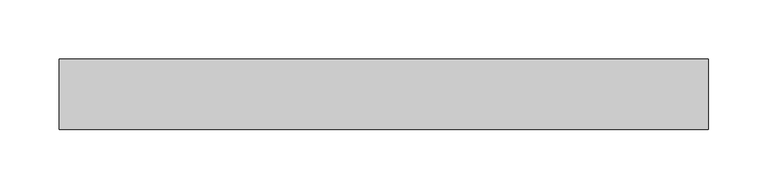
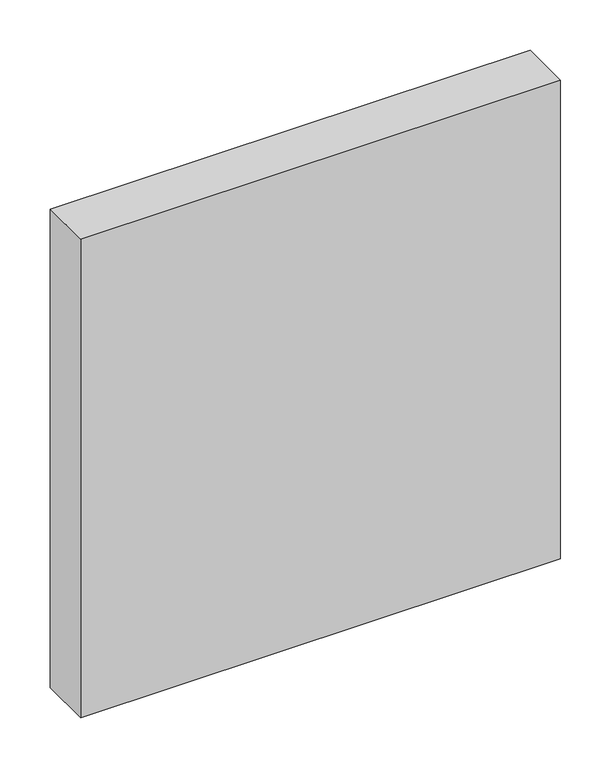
"""IFC4 building model written with IfcOpenShell, lengths in millimetres: plate geometry, Системная панель : Алюкобонд серый."""

import ifcopenshell
import ifcopenshell.guid

model = None  # the IFC model being written
_history = None  # IfcOwnerHistory: only IFC2X3 demands one
_inside = {}  # id of a spatial element -> (the spatial element, [elements in it])
_under = {}  # id of a project, library or spatial element -> (it, [spatial elements below it])
_declared = {}  # id of a project -> (the project, [libraries it declares])
_typed = {}  # id of a type object -> (the type object, [elements of that type])
_made_of = {}  # id of a material, layer set ... -> (it, [elements and type objects made of it])


def new_model(schema):
    """Start an empty IFC model of exactly this schema.

    Asked for "IFC4X3", IfcOpenShell would pick the latest addendum, in which some entities
    have other attributes; the version numbers below select the first issue.
    IFC2X3 requires an IfcOwnerHistory on every rooted entity: one is made here for all.
    """
    global model, _history
    if schema == "IFC4X3":
        model = ifcopenshell.file(schema_version=(4, 3, 0, 0))
    else:
        model = ifcopenshell.file(schema=schema)
    _inside.clear()
    _under.clear()
    _declared.clear()
    _typed.clear()
    _made_of.clear()
    _history = None
    if model.schema == "IFC2X3":
        org = make("IfcOrganization", Name="unknown")
        user = make(
            "IfcPersonAndOrganization",
            ThePerson=make("IfcPerson", FamilyName="unknown"),
            TheOrganization=org,
        )
        app = make(
            "IfcApplication",
            ApplicationDeveloper=org,
            Version="unknown",
            ApplicationFullName="unknown",
            ApplicationIdentifier="unknown",
        )
        _history = make(
            "IfcOwnerHistory",
            OwningUser=user,
            OwningApplication=app,
            ChangeAction="ADDED",
            CreationDate=0,
        )
    return model


def make(cls, **values):
    """One entity of the class cls with the attributes given. An attribute that is None is left unset."""
    return model.create_entity(
        cls, **{name: value for name, value in values.items() if value is not None}
    )


def rooted(cls, **values):
    """An entity with a GlobalId (a new one), such as an element, a storey or a relation."""
    return make(cls, GlobalId=ifcopenshell.guid.new(), OwnerHistory=_history, **values)


def si_unit(unit_type, name, prefix=None):
    """IfcSIUnit, for example si_unit("LENGTHUNIT", "METRE", prefix="MILLI")."""
    return make("IfcSIUnit", UnitType=unit_type, Prefix=prefix, Name=name)


def assignment(units):
    """IfcUnitAssignment: the units of a project."""
    return None if units is None else make("IfcUnitAssignment", Units=units)


def point(xyz):
    """IfcCartesianPoint."""
    return None if xyz is None else make("IfcCartesianPoint", Coordinates=xyz)


def direction(xyz):
    """IfcDirection."""
    return None if xyz is None else make("IfcDirection", DirectionRatios=xyz)


def frame(location, z_axis=None, x_axis=None):
    """IfcAxis2Placement3D, a coordinate frame: its origin and axes. An axis left out is left unset."""
    return make(
        "IfcAxis2Placement3D",
        Location=point(location),
        Axis=direction(z_axis),
        RefDirection=direction(x_axis),
    )


def origin():
    """The frame at (0, 0, 0) with its axes left unset."""
    return frame((0.0, 0.0, 0.0))


def origin_with_axes():
    """The frame at (0, 0, 0) with the z axis (0, 0, 1) and the x axis (1, 0, 0) written out."""
    return frame((0.0, 0.0, 0.0), z_axis=(0.0, 0.0, 1.0), x_axis=(1.0, 0.0, 0.0))


def place(relative_to, where):
    """IfcLocalPlacement: puts the frame where relative to a parent placement (None: the world)."""
    return make(
        "IfcLocalPlacement", PlacementRelTo=relative_to, RelativePlacement=where
    )


def context(
    kind, dimensions, precision=None, world=None, true_north=None, identifier=None
):
    """IfcGeometricRepresentationContext, for example the 3D "Model" context."""
    return make(
        "IfcGeometricRepresentationContext",
        ContextIdentifier=identifier,
        ContextType=kind,
        CoordinateSpaceDimension=dimensions,
        Precision=precision,
        WorldCoordinateSystem=world,
        TrueNorth=true_north,
    )


def project(units=None, contexts=None):
    """IfcProject with its units and contexts."""
    return rooted(
        "IfcProject",
        Name="project",
        RepresentationContexts=contexts,
        UnitsInContext=assignment(units),
    )


def spatial(cls, under=None, at=None, **own):
    """A site, building, storey or space (cls), placed at a placement, below another one or the project."""
    s = rooted(cls, ObjectPlacement=at, **own)
    if under is not None:
        _under.setdefault(under.id(), (under, []))[1].append(s)
    return s


def polyline(points):
    """IfcPolyline through the points."""
    return make("IfcPolyline", Points=[point(p) for p in points])


def outline(outer, holes=None, kind="AREA"):
    """IfcArbitraryClosedProfileDef: a profile drawn as a closed curve; with holes, ...WithVoids."""
    if holes is None:
        return make("IfcArbitraryClosedProfileDef", ProfileType=kind, OuterCurve=outer)
    return make(
        "IfcArbitraryProfileDefWithVoids",
        ProfileType=kind,
        OuterCurve=outer,
        InnerCurves=holes,
    )


def extrude(swept, where, along, depth):
    """IfcExtrudedAreaSolid: the profile swept, set in the frame where, extruded along a direction by depth."""
    return make(
        "IfcExtrudedAreaSolid",
        SweptArea=swept,
        Position=where,
        ExtrudedDirection=direction(along),
        Depth=depth,
    )


def shape(context_of_items, identifier, shape_type, items):
    """IfcShapeRepresentation: the items that make up one representation, for example the "Body"."""
    return make(
        "IfcShapeRepresentation",
        ContextOfItems=context_of_items,
        RepresentationIdentifier=identifier,
        RepresentationType=shape_type,
        Items=items,
    )


def source(mapping_origin, context_of_items, identifier, shape_type, items):
    """IfcRepresentationMap: a shape defined once, which mapped items show again and again."""
    return make(
        "IfcRepresentationMap",
        MappingOrigin=mapping_origin,
        MappedRepresentation=shape(context_of_items, identifier, shape_type, items),
    )


def transform(
    local_origin,
    x_axis=None,
    y_axis=None,
    z_axis=None,
    scale=None,
    scale2=None,
    scale3=None,
    uniform=True,
):
    """IfcCartesianTransformationOperator3D, or its non-uniform kind. x_axis, y_axis, z_axis: its Axis1, 2, 3."""
    if uniform:
        return make(
            "IfcCartesianTransformationOperator3D",
            Axis1=direction(x_axis),
            Axis2=direction(y_axis),
            LocalOrigin=point(local_origin),
            Scale=scale,
            Axis3=direction(z_axis),
        )
    return make(
        "IfcCartesianTransformationOperator3DnonUniform",
        Axis1=direction(x_axis),
        Axis2=direction(y_axis),
        LocalOrigin=point(local_origin),
        Scale=scale,
        Axis3=direction(z_axis),
        Scale2=scale2,
        Scale3=scale3,
    )


def mapped(mapping_source, mapping_target):
    """IfcMappedItem: shows the shape of a source again, moved by a transform."""
    return make(
        "IfcMappedItem", MappingSource=mapping_source, MappingTarget=mapping_target
    )


def made_of(thing, what):
    """Note that an element or type object is made of a material, layer set ...; save() writes the relation."""
    if what is not None:
        _made_of.setdefault(what.id(), (what, []))[1].append(thing)
    return thing


def element(
    cls,
    number,
    at=None,
    inside=None,
    cuts=None,
    type_object=None,
    material=None,
    context=None,
    identifier="Body",
    shape_type=None,
    held_by="IfcProductDefinitionShape",
    body=None,
    shapes=None,
    **own,
):
    """One element of the class cls, such as IfcWall. Its Tag is "e" and its number.

    at: its placement. inside: the storey or other place that contains it. cuts: it is an
    opening in that element (IfcRelVoidsElement). A single representation is given by context,
    identifier, shape_type and body (its items); several are given by shapes. held_by: the class
    of the entity that holds the representations. save() writes the other relations.
    """
    e = rooted(cls, Tag="e%d" % number, ObjectPlacement=at, **own)
    if body is not None:
        shapes = [shape(context, identifier, shape_type, body)]
    if shapes is not None:
        e.Representation = make(held_by, Representations=shapes)
    if inside is not None:
        _inside.setdefault(inside.id(), (inside, []))[1].append(e)
    if cuts is not None:
        rooted(
            "IfcRelVoidsElement", RelatingBuildingElement=cuts, RelatedOpeningElement=e
        )
    if type_object is not None:
        _typed.setdefault(type_object.id(), (type_object, []))[1].append(e)
    return made_of(e, material)


def aggregate(whole, parts):
    """IfcRelAggregates: a whole, such as a stair, and the parts it consists of."""
    return rooted("IfcRelAggregates", RelatingObject=whole, RelatedObjects=parts)


def save(model, path):
    """Write the relations noted so far, then the file.

    IfcRelAggregates (storeys below a building ...), IfcRelContainedInSpatialStructure (elements
    in a storey), IfcRelDefinesByType, IfcRelAssociatesMaterial and IfcRelDeclares: one each for
    every whole, place, type object, material and project.
    """
    for whole, parts in _under.values():
        aggregate(whole, parts)
    for where, things in _inside.values():
        rooted(
            "IfcRelContainedInSpatialStructure",
            RelatedElements=things,
            RelatingStructure=where,
        )
    for kind, things in _typed.values():
        rooted("IfcRelDefinesByType", RelatedObjects=things, RelatingType=kind)
    for what, things in _made_of.values():
        rooted("IfcRelAssociatesMaterial", RelatedObjects=things, RelatingMaterial=what)
    for by, libraries in _declared.values():
        rooted("IfcRelDeclares", RelatingContext=by, RelatedDefinitions=libraries)
    model.write(path)


def plate_eef491f2(model_context):
    return source(origin(), model_context, "Body", "SweptSolid", [
        extrude(outline(polyline([(275.0, -10.5), (-275.0, -10.5), (-275.0, 49.5), (275.0, 49.5), (275.0, -10.5)])), origin_with_axes(), (0.0, 0.0, 1.0), 580.0),
    ])


if __name__ == "__main__":
    model = new_model("IFC4")
    model_context = context("Model", 3, world=origin())
    ifc_project = project(units=[si_unit("LENGTHUNIT", "METRE", prefix="MILLI")], contexts=[model_context])
    site = spatial("IfcSite", under=ifc_project)
    building = spatial("IfcBuilding", under=site)
    placement = place(None, origin())
    plate_shape = plate_eef491f2(model_context)
    element("IfcPlate", 1, ObjectType="Системная панель : Алюкобонд серый", at=placement, inside=building, context=model_context, shape_type="MappedRepresentation", body=[
        mapped(plate_shape, transform((0.0, 0.0, 0.0), x_axis=(1.0, 0.0, 0.0), y_axis=(0.0, 1.0, 0.0), z_axis=(0.0, 0.0, 1.0))),
    ])
    save(model, "model.ifc")
